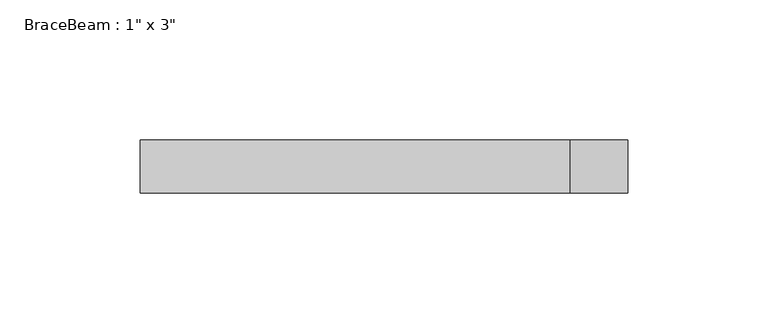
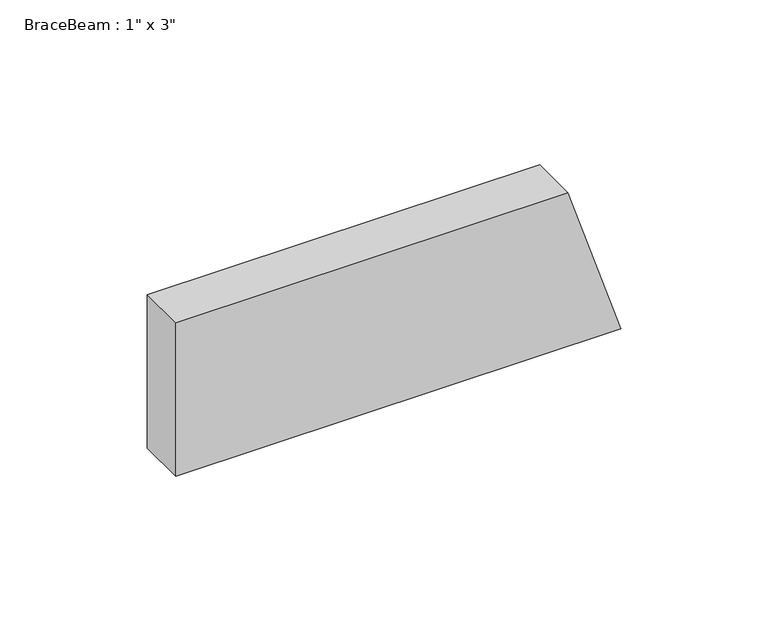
"""IFC4 building model written with IfcOpenShell, lengths in millimetres: beam geometry."""

import ifcopenshell
import ifcopenshell.guid

model = None  # the IFC model being written
_history = None  # IfcOwnerHistory: only IFC2X3 demands one
_inside = {}  # id of a spatial element -> (the spatial element, [elements in it])
_under = {}  # id of a project, library or spatial element -> (it, [spatial elements below it])
_declared = {}  # id of a project -> (the project, [libraries it declares])
_typed = {}  # id of a type object -> (the type object, [elements of that type])
_made_of = {}  # id of a material, layer set ... -> (it, [elements and type objects made of it])


def new_model(schema):
    """Start an empty IFC model of exactly this schema.

    Asked for "IFC4X3", IfcOpenShell would pick the latest addendum, in which some entities
    have other attributes; the version numbers below select the first issue.
    IFC2X3 requires an IfcOwnerHistory on every rooted entity: one is made here for all.
    """
    global model, _history
    if schema == "IFC4X3":
        model = ifcopenshell.file(schema_version=(4, 3, 0, 0))
    else:
        model = ifcopenshell.file(schema=schema)
    _inside.clear()
    _under.clear()
    _declared.clear()
    _typed.clear()
    _made_of.clear()
    _history = None
    if model.schema == "IFC2X3":
        org = make("IfcOrganization", Name="unknown")
        user = make(
            "IfcPersonAndOrganization",
            ThePerson=make("IfcPerson", FamilyName="unknown"),
            TheOrganization=org,
        )
        app = make(
            "IfcApplication",
            ApplicationDeveloper=org,
            Version="unknown",
            ApplicationFullName="unknown",
            ApplicationIdentifier="unknown",
        )
        _history = make(
            "IfcOwnerHistory",
            OwningUser=user,
            OwningApplication=app,
            ChangeAction="ADDED",
            CreationDate=0,
        )
    return model


def make(cls, **values):
    """One entity of the class cls with the attributes given. An attribute that is None is left unset."""
    return model.create_entity(
        cls, **{name: value for name, value in values.items() if value is not None}
    )


def rooted(cls, **values):
    """An entity with a GlobalId (a new one), such as an element, a storey or a relation."""
    return make(cls, GlobalId=ifcopenshell.guid.new(), OwnerHistory=_history, **values)


def si_unit(unit_type, name, prefix=None):
    """IfcSIUnit, for example si_unit("LENGTHUNIT", "METRE", prefix="MILLI")."""
    return make("IfcSIUnit", UnitType=unit_type, Prefix=prefix, Name=name)


def assignment(units):
    """IfcUnitAssignment: the units of a project."""
    return None if units is None else make("IfcUnitAssignment", Units=units)


def point(xyz):
    """IfcCartesianPoint."""
    return None if xyz is None else make("IfcCartesianPoint", Coordinates=xyz)


def direction(xyz):
    """IfcDirection."""
    return None if xyz is None else make("IfcDirection", DirectionRatios=xyz)


def frame(location, z_axis=None, x_axis=None):
    """IfcAxis2Placement3D, a coordinate frame: its origin and axes. An axis left out is left unset."""
    return make(
        "IfcAxis2Placement3D",
        Location=point(location),
        Axis=direction(z_axis),
        RefDirection=direction(x_axis),
    )


def origin():
    """The frame at (0, 0, 0) with its axes left unset."""
    return frame((0.0, 0.0, 0.0))


def place(relative_to, where):
    """IfcLocalPlacement: puts the frame where relative to a parent placement (None: the world)."""
    return make(
        "IfcLocalPlacement", PlacementRelTo=relative_to, RelativePlacement=where
    )


def context(
    kind, dimensions, precision=None, world=None, true_north=None, identifier=None
):
    """IfcGeometricRepresentationContext, for example the 3D "Model" context."""
    return make(
        "IfcGeometricRepresentationContext",
        ContextIdentifier=identifier,
        ContextType=kind,
        CoordinateSpaceDimension=dimensions,
        Precision=precision,
        WorldCoordinateSystem=world,
        TrueNorth=true_north,
    )


def project(units=None, contexts=None):
    """IfcProject with its units and contexts."""
    return rooted(
        "IfcProject",
        Name="project",
        RepresentationContexts=contexts,
        UnitsInContext=assignment(units),
    )


def spatial(cls, under=None, at=None, **own):
    """A site, building, storey or space (cls), placed at a placement, below another one or the project."""
    s = rooted(cls, ObjectPlacement=at, **own)
    if under is not None:
        _under.setdefault(under.id(), (under, []))[1].append(s)
    return s


def faces_of(points, faces, orient=None, outer=None):
    """IfcFace entities. A face is a list of loops; a loop is a list of indices into points, from 0.

    orient and outer hold one flag for each loop. By default every Orientation is true, the
    first loop of a face is its IfcFaceOuterBound and the others are IfcFaceBound.
    """
    made = []
    for i, loops in enumerate(faces):
        bounds = []
        for j, loop in enumerate(loops):
            is_outer = j == 0 if outer is None else outer[i][j]
            bounds.append(
                make(
                    "IfcFaceOuterBound" if is_outer else "IfcFaceBound",
                    Bound=make("IfcPolyLoop", Polygon=[points[k] for k in loop]),
                    Orientation=True if orient is None else orient[i][j],
                )
            )
        made.append(make("IfcFace", Bounds=bounds))
    return made


def faceted_brep(points, faces, orient=None, outer=None, voids=None):
    """IfcFacetedBrep: a solid bounded by flat faces; with voids (closed shells), ...WithVoids."""
    shared = [point(p) for p in points]
    hull = make("IfcClosedShell", CfsFaces=faces_of(shared, faces, orient, outer))
    if voids is None:
        return make("IfcFacetedBrep", Outer=hull)
    return make(
        "IfcFacetedBrepWithVoids",
        Outer=hull,
        Voids=[
            make(cls, CfsFaces=faces_of(shared, fs, o, b)) for cls, fs, o, b in voids
        ],
    )


def shape(context_of_items, identifier, shape_type, items):
    """IfcShapeRepresentation: the items that make up one representation, for example the "Body"."""
    return make(
        "IfcShapeRepresentation",
        ContextOfItems=context_of_items,
        RepresentationIdentifier=identifier,
        RepresentationType=shape_type,
        Items=items,
    )


def source(mapping_origin, context_of_items, identifier, shape_type, items):
    """IfcRepresentationMap: a shape defined once, which mapped items show again and again."""
    return make(
        "IfcRepresentationMap",
        MappingOrigin=mapping_origin,
        MappedRepresentation=shape(context_of_items, identifier, shape_type, items),
    )


def transform(
    local_origin,
    x_axis=None,
    y_axis=None,
    z_axis=None,
    scale=None,
    scale2=None,
    scale3=None,
    uniform=True,
):
    """IfcCartesianTransformationOperator3D, or its non-uniform kind. x_axis, y_axis, z_axis: its Axis1, 2, 3."""
    if uniform:
        return make(
            "IfcCartesianTransformationOperator3D",
            Axis1=direction(x_axis),
            Axis2=direction(y_axis),
            LocalOrigin=point(local_origin),
            Scale=scale,
            Axis3=direction(z_axis),
        )
    return make(
        "IfcCartesianTransformationOperator3DnonUniform",
        Axis1=direction(x_axis),
        Axis2=direction(y_axis),
        LocalOrigin=point(local_origin),
        Scale=scale,
        Axis3=direction(z_axis),
        Scale2=scale2,
        Scale3=scale3,
    )


def mapped(mapping_source, mapping_target):
    """IfcMappedItem: shows the shape of a source again, moved by a transform."""
    return make(
        "IfcMappedItem", MappingSource=mapping_source, MappingTarget=mapping_target
    )


def made_of(thing, what):
    """Note that an element or type object is made of a material, layer set ...; save() writes the relation."""
    if what is not None:
        _made_of.setdefault(what.id(), (what, []))[1].append(thing)
    return thing


def element(
    cls,
    number,
    at=None,
    inside=None,
    cuts=None,
    type_object=None,
    material=None,
    context=None,
    identifier="Body",
    shape_type=None,
    held_by="IfcProductDefinitionShape",
    body=None,
    shapes=None,
    **own,
):
    """One element of the class cls, such as IfcWall. Its Tag is "e" and its number.

    at: its placement. inside: the storey or other place that contains it. cuts: it is an
    opening in that element (IfcRelVoidsElement). A single representation is given by context,
    identifier, shape_type and body (its items); several are given by shapes. held_by: the class
    of the entity that holds the representations. save() writes the other relations.
    """
    e = rooted(cls, Tag="e%d" % number, ObjectPlacement=at, **own)
    if body is not None:
        shapes = [shape(context, identifier, shape_type, body)]
    if shapes is not None:
        e.Representation = make(held_by, Representations=shapes)
    if inside is not None:
        _inside.setdefault(inside.id(), (inside, []))[1].append(e)
    if cuts is not None:
        rooted(
            "IfcRelVoidsElement", RelatingBuildingElement=cuts, RelatedOpeningElement=e
        )
    if type_object is not None:
        _typed.setdefault(type_object.id(), (type_object, []))[1].append(e)
    return made_of(e, material)


def aggregate(whole, parts):
    """IfcRelAggregates: a whole, such as a stair, and the parts it consists of."""
    return rooted("IfcRelAggregates", RelatingObject=whole, RelatedObjects=parts)


def save(model, path):
    """Write the relations noted so far, then the file.

    IfcRelAggregates (storeys below a building ...), IfcRelContainedInSpatialStructure (elements
    in a storey), IfcRelDefinesByType, IfcRelAssociatesMaterial and IfcRelDeclares: one each for
    every whole, place, type object, material and project.
    """
    for whole, parts in _under.values():
        aggregate(whole, parts)
    for where, things in _inside.values():
        rooted(
            "IfcRelContainedInSpatialStructure",
            RelatedElements=things,
            RelatingStructure=where,
        )
    for kind, things in _typed.values():
        rooted("IfcRelDefinesByType", RelatedObjects=things, RelatingType=kind)
    for what, things in _made_of.values():
        rooted("IfcRelAssociatesMaterial", RelatedObjects=things, RelatingMaterial=what)
    for by, libraries in _declared.values():
        rooted("IfcRelDeclares", RelatingContext=by, RelatedDefinitions=libraries)
    model.write(path)


def beam_0a4d136b(model_context):
    return source(origin(), model_context, "Body", "Brep", [
        faceted_brep([(-82.7566177, -9.525, -31.75), (-82.7566177, 9.525, -31.75), (91.4710952, 9.525, -31.75), (91.4710952, -9.525, -31.75), (-82.7566177, 9.525, 31.75), (70.7454007, 9.525, 31.75), (81.108248, 9.525, 0.0), (-82.7566177, -9.525, 31.75), (70.7454007, -9.525, 31.75), (81.108248, -9.525, 0.0)], [[[0, 1, 2, 3]], [[1, 4, 5, 6, 2]], [[4, 7, 8, 5]], [[7, 0, 3, 9, 8]], [[7, 4, 1, 0]], [[5, 8, 9, 3, 2, 6]]]),
    ])


if __name__ == "__main__":
    model = new_model("IFC4")
    model_context = context("Model", 3, world=origin())
    ifc_project = project(units=[si_unit("LENGTHUNIT", "METRE", prefix="MILLI")], contexts=[model_context])
    site = spatial("IfcSite", under=ifc_project)
    building = spatial("IfcBuilding", under=site)
    placement = place(None, origin())
    beam_shape = beam_0a4d136b(model_context)
    element("IfcBeam", 1, ObjectType="BraceBeam : 1\" x 3\"", at=placement, inside=building, context=model_context, shape_type="MappedRepresentation", body=[
        mapped(beam_shape, transform((0.0, 0.0, 0.0), x_axis=(1.0, 0.0, 0.0), y_axis=(0.0, 1.0, 0.0), z_axis=(0.0, 0.0, 1.0))),
    ])
    save(model, "model.ifc")
